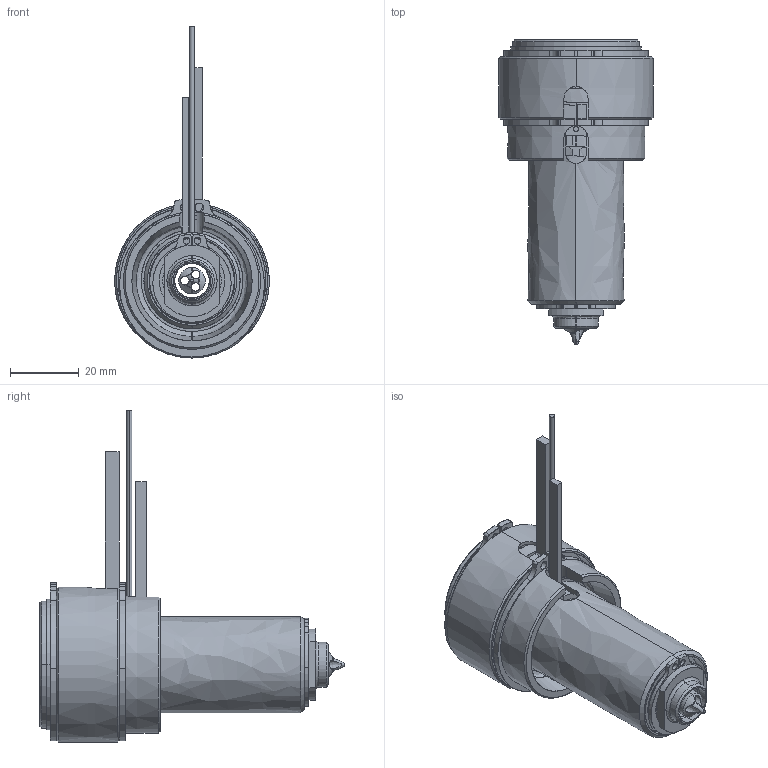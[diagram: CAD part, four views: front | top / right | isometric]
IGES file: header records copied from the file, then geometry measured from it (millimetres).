
Start section: SolidWorks IGES file using analytic representation for surfaces
Global section: file name: C:\Documents and Settings\ws-20\Desktop\TEM\UGEP4501-M-A-1 [Øf-0.88 ØC-10].IGS; native system: SolidWorks 2012; preprocessor: SolidWorks 2012; author: ws-20; date: 120424.090409; units: millimetre
Bounding box: 45 x 89.05 x 96.65 mm (x, y, z)
Surface area: 37988.7 mm2 (no closed solid volume)
Topology: 0 solids, 0 shells, 185 faces, 3516 edges, 3516 vertices
Faces by surface type: revolution 114, bspline 71
